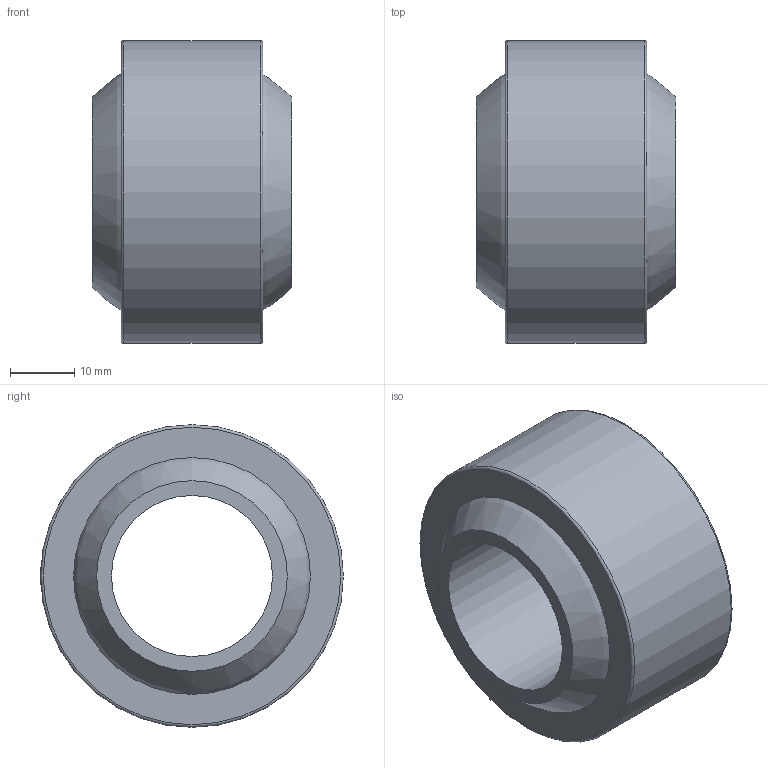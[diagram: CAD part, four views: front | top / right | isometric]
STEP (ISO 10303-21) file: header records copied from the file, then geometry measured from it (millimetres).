
FILE_DESCRIPTION( ( 'STEP AP203' ), '1' );
FILE_NAME( 'C:/Temp/Ganter_Step_05_03_2020/data/3_6/gn_648_8/gn_648_8_n/Ball joint GN 648.8-25-47-N.stp', '2020-03-12T14:14:27', ( 'License CC BY-ND 4.0' ), ( 'CADENAS' ), ' ', 'PARTsolutions', ' ' );
FILE_SCHEMA( ( 'CONFIG_CONTROL_DESIGN' ) );
Length unit declared in the file: millimetre
Products named in the file (3): Ball joint GN 648.8-25-47-N; _Ball joint GN 648.8-25-47-N-2; _Ball joint GN 648.8-25-47-N-1
Assembly tree (2 placements, depth 2):
  Ball joint GN 648.8-25-47-N
    _Ball joint GN 648.8-25-47-N-2
    _Ball joint GN 648.8-25-47-N-1
Bounding box: 31 x 47 x 47 mm (x, y, z)
Volume: 30904.5 mm3; surface area: 14514.1 mm2
Topology: 2 solids, 2 shells, 11 faces, 20 edges, 13 vertices
Faces by surface type: plane 4, cylinder 3, sphere 2, torus 2
Full cylindrical faces by diameter (mm): 2.5 x1, 25 x1, 47 x1
Entity records: 388 total; most frequent: CARTESIAN_POINT 75, DIRECTION 50, AXIS2_PLACEMENT_3D 25, EDGE_LOOP 24, ORIENTED_EDGE 24, FACE_OUTER_BOUND 18, CC_DESIGN_PERSON_AND_ORGANIZATION_ASSIGNMENT 13, EDGE_CURVE 12
